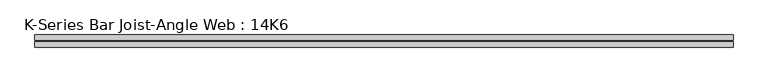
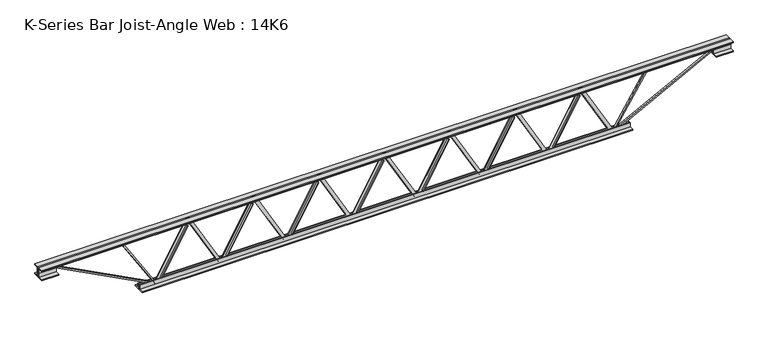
"""IFC4 building model written with IfcOpenShell, lengths in millimetres: beam geometry, K-Series Bar Joist-Angle Web : 14K6."""

import ifcopenshell
import ifcopenshell.guid

model = None  # the IFC model being written
_history = None  # IfcOwnerHistory: only IFC2X3 demands one
_inside = {}  # id of a spatial element -> (the spatial element, [elements in it])
_under = {}  # id of a project, library or spatial element -> (it, [spatial elements below it])
_declared = {}  # id of a project -> (the project, [libraries it declares])
_typed = {}  # id of a type object -> (the type object, [elements of that type])
_made_of = {}  # id of a material, layer set ... -> (it, [elements and type objects made of it])


def new_model(schema):
    """Start an empty IFC model of exactly this schema.

    Asked for "IFC4X3", IfcOpenShell would pick the latest addendum, in which some entities
    have other attributes; the version numbers below select the first issue.
    IFC2X3 requires an IfcOwnerHistory on every rooted entity: one is made here for all.
    """
    global model, _history
    if schema == "IFC4X3":
        model = ifcopenshell.file(schema_version=(4, 3, 0, 0))
    else:
        model = ifcopenshell.file(schema=schema)
    _inside.clear()
    _under.clear()
    _declared.clear()
    _typed.clear()
    _made_of.clear()
    _history = None
    if model.schema == "IFC2X3":
        org = make("IfcOrganization", Name="unknown")
        user = make(
            "IfcPersonAndOrganization",
            ThePerson=make("IfcPerson", FamilyName="unknown"),
            TheOrganization=org,
        )
        app = make(
            "IfcApplication",
            ApplicationDeveloper=org,
            Version="unknown",
            ApplicationFullName="unknown",
            ApplicationIdentifier="unknown",
        )
        _history = make(
            "IfcOwnerHistory",
            OwningUser=user,
            OwningApplication=app,
            ChangeAction="ADDED",
            CreationDate=0,
        )
    return model


def make(cls, **values):
    """One entity of the class cls with the attributes given. An attribute that is None is left unset."""
    return model.create_entity(
        cls, **{name: value for name, value in values.items() if value is not None}
    )


def rooted(cls, **values):
    """An entity with a GlobalId (a new one), such as an element, a storey or a relation."""
    return make(cls, GlobalId=ifcopenshell.guid.new(), OwnerHistory=_history, **values)


def si_unit(unit_type, name, prefix=None):
    """IfcSIUnit, for example si_unit("LENGTHUNIT", "METRE", prefix="MILLI")."""
    return make("IfcSIUnit", UnitType=unit_type, Prefix=prefix, Name=name)


def assignment(units):
    """IfcUnitAssignment: the units of a project."""
    return None if units is None else make("IfcUnitAssignment", Units=units)


def point(xyz):
    """IfcCartesianPoint."""
    return None if xyz is None else make("IfcCartesianPoint", Coordinates=xyz)


def direction(xyz):
    """IfcDirection."""
    return None if xyz is None else make("IfcDirection", DirectionRatios=xyz)


def frame(location, z_axis=None, x_axis=None):
    """IfcAxis2Placement3D, a coordinate frame: its origin and axes. An axis left out is left unset."""
    return make(
        "IfcAxis2Placement3D",
        Location=point(location),
        Axis=direction(z_axis),
        RefDirection=direction(x_axis),
    )


def origin():
    """The frame at (0, 0, 0) with its axes left unset."""
    return frame((0.0, 0.0, 0.0))


def place(relative_to, where):
    """IfcLocalPlacement: puts the frame where relative to a parent placement (None: the world)."""
    return make(
        "IfcLocalPlacement", PlacementRelTo=relative_to, RelativePlacement=where
    )


def context(
    kind, dimensions, precision=None, world=None, true_north=None, identifier=None
):
    """IfcGeometricRepresentationContext, for example the 3D "Model" context."""
    return make(
        "IfcGeometricRepresentationContext",
        ContextIdentifier=identifier,
        ContextType=kind,
        CoordinateSpaceDimension=dimensions,
        Precision=precision,
        WorldCoordinateSystem=world,
        TrueNorth=true_north,
    )


def project(units=None, contexts=None):
    """IfcProject with its units and contexts."""
    return rooted(
        "IfcProject",
        Name="project",
        RepresentationContexts=contexts,
        UnitsInContext=assignment(units),
    )


def spatial(cls, under=None, at=None, **own):
    """A site, building, storey or space (cls), placed at a placement, below another one or the project."""
    s = rooted(cls, ObjectPlacement=at, **own)
    if under is not None:
        _under.setdefault(under.id(), (under, []))[1].append(s)
    return s


def polyline(points):
    """IfcPolyline through the points."""
    return make("IfcPolyline", Points=[point(p) for p in points])


def outline(outer, holes=None, kind="AREA"):
    """IfcArbitraryClosedProfileDef: a profile drawn as a closed curve; with holes, ...WithVoids."""
    if holes is None:
        return make("IfcArbitraryClosedProfileDef", ProfileType=kind, OuterCurve=outer)
    return make(
        "IfcArbitraryProfileDefWithVoids",
        ProfileType=kind,
        OuterCurve=outer,
        InnerCurves=holes,
    )


def extrude(swept, where, along, depth):
    """IfcExtrudedAreaSolid: the profile swept, set in the frame where, extruded along a direction by depth."""
    return make(
        "IfcExtrudedAreaSolid",
        SweptArea=swept,
        Position=where,
        ExtrudedDirection=direction(along),
        Depth=depth,
    )


def faces_of(points, faces, orient=None, outer=None):
    """IfcFace entities. A face is a list of loops; a loop is a list of indices into points, from 0.

    orient and outer hold one flag for each loop. By default every Orientation is true, the
    first loop of a face is its IfcFaceOuterBound and the others are IfcFaceBound.
    """
    made = []
    for i, loops in enumerate(faces):
        bounds = []
        for j, loop in enumerate(loops):
            is_outer = j == 0 if outer is None else outer[i][j]
            bounds.append(
                make(
                    "IfcFaceOuterBound" if is_outer else "IfcFaceBound",
                    Bound=make("IfcPolyLoop", Polygon=[points[k] for k in loop]),
                    Orientation=True if orient is None else orient[i][j],
                )
            )
        made.append(make("IfcFace", Bounds=bounds))
    return made


def faceted_brep(points, faces, orient=None, outer=None, voids=None):
    """IfcFacetedBrep: a solid bounded by flat faces; with voids (closed shells), ...WithVoids."""
    shared = [point(p) for p in points]
    hull = make("IfcClosedShell", CfsFaces=faces_of(shared, faces, orient, outer))
    if voids is None:
        return make("IfcFacetedBrep", Outer=hull)
    return make(
        "IfcFacetedBrepWithVoids",
        Outer=hull,
        Voids=[
            make(cls, CfsFaces=faces_of(shared, fs, o, b)) for cls, fs, o, b in voids
        ],
    )


def shape(context_of_items, identifier, shape_type, items):
    """IfcShapeRepresentation: the items that make up one representation, for example the "Body"."""
    return make(
        "IfcShapeRepresentation",
        ContextOfItems=context_of_items,
        RepresentationIdentifier=identifier,
        RepresentationType=shape_type,
        Items=items,
    )


def source(mapping_origin, context_of_items, identifier, shape_type, items):
    """IfcRepresentationMap: a shape defined once, which mapped items show again and again."""
    return make(
        "IfcRepresentationMap",
        MappingOrigin=mapping_origin,
        MappedRepresentation=shape(context_of_items, identifier, shape_type, items),
    )


def transform(
    local_origin,
    x_axis=None,
    y_axis=None,
    z_axis=None,
    scale=None,
    scale2=None,
    scale3=None,
    uniform=True,
):
    """IfcCartesianTransformationOperator3D, or its non-uniform kind. x_axis, y_axis, z_axis: its Axis1, 2, 3."""
    if uniform:
        return make(
            "IfcCartesianTransformationOperator3D",
            Axis1=direction(x_axis),
            Axis2=direction(y_axis),
            LocalOrigin=point(local_origin),
            Scale=scale,
            Axis3=direction(z_axis),
        )
    return make(
        "IfcCartesianTransformationOperator3DnonUniform",
        Axis1=direction(x_axis),
        Axis2=direction(y_axis),
        LocalOrigin=point(local_origin),
        Scale=scale,
        Axis3=direction(z_axis),
        Scale2=scale2,
        Scale3=scale3,
    )


def mapped(mapping_source, mapping_target):
    """IfcMappedItem: shows the shape of a source again, moved by a transform."""
    return make(
        "IfcMappedItem", MappingSource=mapping_source, MappingTarget=mapping_target
    )


def made_of(thing, what):
    """Note that an element or type object is made of a material, layer set ...; save() writes the relation."""
    if what is not None:
        _made_of.setdefault(what.id(), (what, []))[1].append(thing)
    return thing


def element(
    cls,
    number,
    at=None,
    inside=None,
    cuts=None,
    type_object=None,
    material=None,
    context=None,
    identifier="Body",
    shape_type=None,
    held_by="IfcProductDefinitionShape",
    body=None,
    shapes=None,
    **own,
):
    """One element of the class cls, such as IfcWall. Its Tag is "e" and its number.

    at: its placement. inside: the storey or other place that contains it. cuts: it is an
    opening in that element (IfcRelVoidsElement). A single representation is given by context,
    identifier, shape_type and body (its items); several are given by shapes. held_by: the class
    of the entity that holds the representations. save() writes the other relations.
    """
    e = rooted(cls, Tag="e%d" % number, ObjectPlacement=at, **own)
    if body is not None:
        shapes = [shape(context, identifier, shape_type, body)]
    if shapes is not None:
        e.Representation = make(held_by, Representations=shapes)
    if inside is not None:
        _inside.setdefault(inside.id(), (inside, []))[1].append(e)
    if cuts is not None:
        rooted(
            "IfcRelVoidsElement", RelatingBuildingElement=cuts, RelatedOpeningElement=e
        )
    if type_object is not None:
        _typed.setdefault(type_object.id(), (type_object, []))[1].append(e)
    return made_of(e, material)


def aggregate(whole, parts):
    """IfcRelAggregates: a whole, such as a stair, and the parts it consists of."""
    return rooted("IfcRelAggregates", RelatingObject=whole, RelatedObjects=parts)


def save(model, path):
    """Write the relations noted so far, then the file.

    IfcRelAggregates (storeys below a building ...), IfcRelContainedInSpatialStructure (elements
    in a storey), IfcRelDefinesByType, IfcRelAssociatesMaterial and IfcRelDeclares: one each for
    every whole, place, type object, material and project.
    """
    for whole, parts in _under.values():
        aggregate(whole, parts)
    for where, things in _inside.values():
        rooted(
            "IfcRelContainedInSpatialStructure",
            RelatedElements=things,
            RelatingStructure=where,
        )
    for kind, things in _typed.values():
        rooted("IfcRelDefinesByType", RelatedObjects=things, RelatingType=kind)
    for what, things in _made_of.values():
        rooted("IfcRelAssociatesMaterial", RelatedObjects=things, RelatingMaterial=what)
    for by, libraries in _declared.values():
        rooted("IfcRelDeclares", RelatingContext=by, RelatedDefinitions=libraries)
    model.write(path)


def k_series_bar_joist_angle_web_14k6_7bd1886d(model_context):
    return source(origin(), model_context, "Body", "SolidModel", [
        extrude(outline(polyline([(-4.7625, 4.7625), (-4.7625, 0.0), (-17.4625, 0.0), (-17.4625, 4.7625), (-4.7625, 4.7625)])), frame((962.2914263, 0.0, -139.7), z_axis=(-0.49094288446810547, 0.0, 0.8711917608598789), x_axis=(0.0, -1.0, 0.0)), (0.0, 0.0, 1.0), 320.7101037),
        extrude(outline(polyline([(-174.625, 993.8883929), (-155.575, 993.8883929), (-155.575, 993.1040665), (174.625, 807.0263879), (174.625, 788.7607143), (155.575, 788.7607143), (155.575, 795.8950406), (-174.625, 981.9727192), (-174.625, 993.8883929)])), frame((0.0, 0.0, 0.0), z_axis=(0.0, 1.0, 0.0), x_axis=(0.0, 0.0, 1.0)), (0.0, 0.0, 1.0), 4.7625),
        faceted_brep([(596.3330357, 0.0, -155.575), (596.3330357, 0.0, -174.625), (596.3330357, -4.7625, -174.625), (596.3330357, -4.7625, -155.575), (597.1173621, 0.0, -155.575), (783.1950406, 0.0, 174.625), (801.4607143, 0.0, 174.625), (801.4607143, 0.0, 155.575), (794.3263879, 0.0, 155.575), (608.2487094, 0.0, -174.625), (608.2487094, -4.7625, -174.625), (627.9300023, -4.7625, -139.7), (623.7809515, -4.7625, -137.3618845), (781.2312949, -4.7625, 142.0381155), (785.3803457, -4.7625, 139.7), (794.3263879, -4.7625, 155.575), (801.4607143, -4.7625, 155.575), (801.4607143, -4.7625, 174.625), (783.1950406, -4.7625, 174.625), (597.1173621, -4.7625, -155.575), (785.3803457, -17.4625, 139.7), (627.9300023, -17.4625, -139.7), (623.7809515, -17.4625, -137.3618845), (781.2312949, -17.4625, 142.0381155)], [[[0, 1, 2, 3]], [[1, 0, 4, 5, 6, 7, 8, 9]], [[2, 1, 9, 10]], [[3, 2, 10, 11, 12, 13, 14, 15, 16, 17, 18, 19]], [[0, 3, 19, 4]], [[9, 8, 15, 14, 20, 21, 11, 10]], [[5, 4, 19, 18]], [[7, 6, 17, 16]], [[8, 7, 16, 15]], [[6, 5, 18, 17]], [[21, 22, 12, 11]], [[20, 14, 13, 23]], [[22, 21, 20, 23]], [[12, 22, 23, 13]]]),
        extrude(outline(polyline([(-4.7625, 4.7625), (-4.7625, 0.0), (-17.4625, 0.0), (-17.4625, 4.7625), (-4.7625, 4.7625)])), frame((564.7360691, 0.0, -139.7), z_axis=(-0.49094288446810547, 0.0, 0.8711917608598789), x_axis=(0.0, -1.0, 0.0)), (0.0, 0.0, 1.0), 320.7101037),
        extrude(outline(polyline([(-174.625, 596.3330357), (-155.575, 596.3330357), (-155.575, 595.5487094), (174.625, 409.4710308), (174.625, 391.2053571), (155.575, 391.2053571), (155.575, 398.3396835), (-174.625, 584.4173621), (-174.625, 596.3330357)])), frame((0.0, 0.0, 0.0), z_axis=(0.0, 1.0, 0.0), x_axis=(0.0, 0.0, 1.0)), (0.0, 0.0, 1.0), 4.7625),
        faceted_brep([(198.7776786, 0.0, -155.575), (198.7776786, 0.0, -174.625), (198.7776786, -4.7625, -174.625), (198.7776786, -4.7625, -155.575), (199.5620049, 0.0, -155.575), (385.6396835, 0.0, 174.625), (403.9053571, 0.0, 174.625), (403.9053571, 0.0, 155.575), (396.7710308, 0.0, 155.575), (210.6933522, 0.0, -174.625), (210.6933522, -4.7625, -174.625), (230.3746451, -4.7625, -139.7), (226.2255944, -4.7625, -137.3618845), (383.6759378, -4.7625, 142.0381155), (387.8249886, -4.7625, 139.7), (396.7710308, -4.7625, 155.575), (403.9053571, -4.7625, 155.575), (403.9053571, -4.7625, 174.625), (385.6396835, -4.7625, 174.625), (199.5620049, -4.7625, -155.575), (387.8249886, -17.4625, 139.7), (230.3746451, -17.4625, -139.7), (226.2255944, -17.4625, -137.3618845), (383.6759378, -17.4625, 142.0381155)], [[[0, 1, 2, 3]], [[1, 0, 4, 5, 6, 7, 8, 9]], [[2, 1, 9, 10]], [[3, 2, 10, 11, 12, 13, 14, 15, 16, 17, 18, 19]], [[0, 3, 19, 4]], [[9, 8, 15, 14, 20, 21, 11, 10]], [[5, 4, 19, 18]], [[7, 6, 17, 16]], [[8, 7, 16, 15]], [[6, 5, 18, 17]], [[21, 22, 12, 11]], [[20, 14, 13, 23]], [[22, 21, 20, 23]], [[12, 22, 23, 13]]]),
        extrude(outline(polyline([(-4.7625, 4.7625), (-4.7625, 0.0), (-17.4625, 0.0), (-17.4625, 4.7625), (-4.7625, 4.7625)])), frame((167.180712, 0.0, -139.7), z_axis=(-0.49094288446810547, 0.0, 0.8711917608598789), x_axis=(0.0, -1.0, 0.0)), (0.0, 0.0, 1.0), 320.7101037),
        extrude(outline(polyline([(-174.625, 198.7776786), (-155.575, 198.7776786), (-155.575, 197.9933522), (174.625, 11.9156736), (174.625, -6.35), (155.575, -6.35), (155.575, 0.7843264), (-174.625, 186.8620049), (-174.625, 198.7776786)])), frame((0.0, 0.0, 0.0), z_axis=(0.0, 1.0, 0.0), x_axis=(0.0, 0.0, 1.0)), (0.0, 0.0, 1.0), 4.7625),
        faceted_brep([(-198.7776786, 0.0, -155.575), (-198.7776786, 0.0, -174.625), (-198.7776786, -4.7625, -174.625), (-198.7776786, -4.7625, -155.575), (-197.9933522, 0.0, -155.575), (-11.9156736, 0.0, 174.625), (6.35, 0.0, 174.625), (6.35, 0.0, 155.575), (-0.7843264, 0.0, 155.575), (-186.8620049, 0.0, -174.625), (-186.8620049, -4.7625, -174.625), (-167.180712, -4.7625, -139.7), (-171.3297628, -4.7625, -137.3618845), (-13.8794194, -4.7625, 142.0381155), (-9.7303686, -4.7625, 139.7), (-0.7843264, -4.7625, 155.575), (6.35, -4.7625, 155.575), (6.35, -4.7625, 174.625), (-11.9156736, -4.7625, 174.625), (-197.9933522, -4.7625, -155.575), (-9.7303686, -17.4625, 139.7), (-167.180712, -17.4625, -139.7), (-171.3297628, -17.4625, -137.3618845), (-13.8794194, -17.4625, 142.0381155)], [[[0, 1, 2, 3]], [[1, 0, 4, 5, 6, 7, 8, 9]], [[2, 1, 9, 10]], [[3, 2, 10, 11, 12, 13, 14, 15, 16, 17, 18, 19]], [[0, 3, 19, 4]], [[9, 8, 15, 14, 20, 21, 11, 10]], [[5, 4, 19, 18]], [[7, 6, 17, 16]], [[8, 7, 16, 15]], [[6, 5, 18, 17]], [[21, 22, 12, 11]], [[20, 14, 13, 23]], [[22, 21, 20, 23]], [[12, 22, 23, 13]]]),
        extrude(outline(polyline([(-4.7625, 4.7625), (-4.7625, 0.0), (-17.4625, 0.0), (-17.4625, 4.7625), (-4.7625, 4.7625)])), frame((-230.3746451, 0.0, -139.7), z_axis=(-0.49094288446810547, 0.0, 0.8711917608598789), x_axis=(0.0, -1.0, 0.0)), (0.0, 0.0, 1.0), 320.7101037),
        extrude(outline(polyline([(-174.625, -198.7776786), (-155.575, -198.7776786), (-155.575, -199.5620049), (174.625, -385.6396835), (174.625, -403.9053571), (155.575, -403.9053571), (155.575, -396.7710308), (-174.625, -210.6933522), (-174.625, -198.7776786)])), frame((0.0, 0.0, 0.0), z_axis=(0.0, 1.0, 0.0), x_axis=(0.0, 0.0, 1.0)), (0.0, 0.0, 1.0), 4.7625),
        faceted_brep([(-596.3330357, 0.0, -155.575), (-596.3330357, 0.0, -174.625), (-596.3330357, -4.7625, -174.625), (-596.3330357, -4.7625, -155.575), (-595.5487094, 0.0, -155.575), (-409.4710308, 0.0, 174.625), (-391.2053571, 0.0, 174.625), (-391.2053571, 0.0, 155.575), (-398.3396835, 0.0, 155.575), (-584.4173621, 0.0, -174.625), (-584.4173621, -4.7625, -174.625), (-564.7360691, -4.7625, -139.7), (-568.8851199, -4.7625, -137.3618845), (-411.4347765, -4.7625, 142.0381155), (-407.2857257, -4.7625, 139.7), (-398.3396835, -4.7625, 155.575), (-391.2053571, -4.7625, 155.575), (-391.2053571, -4.7625, 174.625), (-409.4710308, -4.7625, 174.625), (-595.5487094, -4.7625, -155.575), (-407.2857257, -17.4625, 139.7), (-564.7360691, -17.4625, -139.7), (-568.8851199, -17.4625, -137.3618845), (-411.4347765, -17.4625, 142.0381155)], [[[0, 1, 2, 3]], [[1, 0, 4, 5, 6, 7, 8, 9]], [[2, 1, 9, 10]], [[3, 2, 10, 11, 12, 13, 14, 15, 16, 17, 18, 19]], [[0, 3, 19, 4]], [[9, 8, 15, 14, 20, 21, 11, 10]], [[5, 4, 19, 18]], [[7, 6, 17, 16]], [[8, 7, 16, 15]], [[6, 5, 18, 17]], [[21, 22, 12, 11]], [[20, 14, 13, 23]], [[22, 21, 20, 23]], [[12, 22, 23, 13]]]),
        extrude(outline(polyline([(-4.7625, 4.7625), (-4.7625, 0.0), (-17.4625, 0.0), (-17.4625, 4.7625), (-4.7625, 4.7625)])), frame((-627.9300023, 0.0, -139.7), z_axis=(-0.49094288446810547, 0.0, 0.8711917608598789), x_axis=(0.0, -1.0, 0.0)), (0.0, 0.0, 1.0), 320.7101037),
        extrude(outline(polyline([(-174.625, -596.3330357), (-155.575, -596.3330357), (-155.575, -597.1173621), (174.625, -783.1950406), (174.625, -801.4607143), (155.575, -801.4607143), (155.575, -794.3263879), (-174.625, -608.2487094), (-174.625, -596.3330357)])), frame((0.0, 0.0, 0.0), z_axis=(0.0, 1.0, 0.0), x_axis=(0.0, 0.0, 1.0)), (0.0, 0.0, 1.0), 4.7625),
        faceted_brep([(-993.8883929, 0.0, -155.575), (-993.8883929, 0.0, -174.625), (-993.8883929, -4.7625, -174.625), (-993.8883929, -4.7625, -155.575), (-993.1040665, 0.0, -155.575), (-807.0263879, 0.0, 174.625), (-788.7607143, 0.0, 174.625), (-788.7607143, 0.0, 155.575), (-795.8950406, 0.0, 155.575), (-981.9727192, 0.0, -174.625), (-981.9727192, -4.7625, -174.625), (-962.2914263, -4.7625, -139.7), (-966.440477, -4.7625, -137.3618845), (-808.9901336, -4.7625, 142.0381155), (-804.8410829, -4.7625, 139.7), (-795.8950406, -4.7625, 155.575), (-788.7607143, -4.7625, 155.575), (-788.7607143, -4.7625, 174.625), (-807.0263879, -4.7625, 174.625), (-993.1040665, -4.7625, -155.575), (-804.8410829, -17.4625, 139.7), (-962.2914263, -17.4625, -139.7), (-966.440477, -17.4625, -137.3618845), (-808.9901336, -17.4625, 142.0381155)], [[[0, 1, 2, 3]], [[1, 0, 4, 5, 6, 7, 8, 9]], [[2, 1, 9, 10]], [[3, 2, 10, 11, 12, 13, 14, 15, 16, 17, 18, 19]], [[0, 3, 19, 4]], [[9, 8, 15, 14, 20, 21, 11, 10]], [[5, 4, 19, 18]], [[7, 6, 17, 16]], [[8, 7, 16, 15]], [[6, 5, 18, 17]], [[21, 22, 12, 11]], [[20, 14, 13, 23]], [[22, 21, 20, 23]], [[12, 22, 23, 13]]]),
        extrude(outline(polyline([(-4.7625, 4.7625), (-4.7625, 0.0), (-17.4625, 0.0), (-17.4625, 4.7625), (-4.7625, 4.7625)])), frame((1359.8467834, 0.0, -139.7), z_axis=(-0.49094288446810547, 0.0, 0.8711917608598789), x_axis=(0.0, -1.0, 0.0)), (0.0, 0.0, 1.0), 320.7101037),
        extrude(outline(polyline([(-174.625, 1391.44375), (-155.575, 1391.44375), (-155.575, 1390.6594236), (174.625, 1204.5817451), (174.625, 1186.3160714), (155.575, 1186.3160714), (155.575, 1193.4503978), (-174.625, 1379.5280764), (-174.625, 1391.44375)])), frame((0.0, 0.0, 0.0), z_axis=(0.0, 1.0, 0.0), x_axis=(0.0, 0.0, 1.0)), (0.0, 0.0, 1.0), 4.7625),
        faceted_brep([(993.8883929, 0.0, -155.575), (993.8883929, 0.0, -174.625), (993.8883929, -4.7625, -174.625), (993.8883929, -4.7625, -155.575), (994.6727192, 0.0, -155.575), (1180.7503978, 0.0, 174.625), (1199.0160714, 0.0, 174.625), (1199.0160714, 0.0, 155.575), (1191.8817451, 0.0, 155.575), (1005.8040665, 0.0, -174.625), (1005.8040665, -4.7625, -174.625), (1025.4853594, -4.7625, -139.7), (1021.3363087, -4.7625, -137.3618845), (1178.7866521, -4.7625, 142.0381155), (1182.9357028, -4.7625, 139.7), (1191.8817451, -4.7625, 155.575), (1199.0160714, -4.7625, 155.575), (1199.0160714, -4.7625, 174.625), (1180.7503978, -4.7625, 174.625), (994.6727192, -4.7625, -155.575), (1182.9357028, -17.4625, 139.7), (1025.4853594, -17.4625, -139.7), (1021.3363087, -17.4625, -137.3618845), (1178.7866521, -17.4625, 142.0381155)], [[[0, 1, 2, 3]], [[1, 0, 4, 5, 6, 7, 8, 9]], [[2, 1, 9, 10]], [[3, 2, 10, 11, 12, 13, 14, 15, 16, 17, 18, 19]], [[0, 3, 19, 4]], [[9, 8, 15, 14, 20, 21, 11, 10]], [[5, 4, 19, 18]], [[7, 6, 17, 16]], [[8, 7, 16, 15]], [[6, 5, 18, 17]], [[21, 22, 12, 11]], [[20, 14, 13, 23]], [[22, 21, 20, 23]], [[12, 22, 23, 13]]]),
        extrude(outline(polyline([(-4.7625, 4.7625), (-4.7625, 0.0), (-17.4625, 0.0), (-17.4625, 4.7625), (-4.7625, 4.7625)])), frame((-1025.4853594, 0.0, -139.7), z_axis=(-0.49094288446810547, 0.0, 0.8711917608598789), x_axis=(0.0, -1.0, 0.0)), (0.0, 0.0, 1.0), 320.7101037),
        extrude(outline(polyline([(-174.625, -993.8883929), (-155.575, -993.8883929), (-155.575, -994.6727192), (174.625, -1180.7503978), (174.625, -1199.0160714), (155.575, -1199.0160714), (155.575, -1191.8817451), (-174.625, -1005.8040665), (-174.625, -993.8883929)])), frame((0.0, 0.0, 0.0), z_axis=(0.0, 1.0, 0.0), x_axis=(0.0, 0.0, 1.0)), (0.0, 0.0, 1.0), 4.7625),
        faceted_brep([(-1391.44375, 0.0, -155.575), (-1391.44375, 0.0, -174.625), (-1391.44375, -4.7625, -174.625), (-1391.44375, -4.7625, -155.575), (-1390.6594236, 0.0, -155.575), (-1204.5817451, 0.0, 174.625), (-1186.3160714, 0.0, 174.625), (-1186.3160714, 0.0, 155.575), (-1193.4503978, 0.0, 155.575), (-1379.5280764, 0.0, -174.625), (-1379.5280764, -4.7625, -174.625), (-1359.8467834, -4.7625, -139.7), (-1363.9958342, -4.7625, -137.3618845), (-1206.5454908, -4.7625, 142.0381155), (-1202.39644, -4.7625, 139.7), (-1193.4503978, -4.7625, 155.575), (-1186.3160714, -4.7625, 155.575), (-1186.3160714, -4.7625, 174.625), (-1204.5817451, -4.7625, 174.625), (-1390.6594236, -4.7625, -155.575), (-1202.39644, -17.4625, 139.7), (-1359.8467834, -17.4625, -139.7), (-1363.9958342, -17.4625, -137.3618845), (-1206.5454908, -17.4625, 142.0381155)], [[[0, 1, 2, 3]], [[1, 0, 4, 5, 6, 7, 8, 9]], [[2, 1, 9, 10]], [[3, 2, 10, 11, 12, 13, 14, 15, 16, 17, 18, 19]], [[0, 3, 19, 4]], [[9, 8, 15, 14, 20, 21, 11, 10]], [[5, 4, 19, 18]], [[7, 6, 17, 16]], [[8, 7, 16, 15]], [[6, 5, 18, 17]], [[21, 22, 12, 11]], [[20, 14, 13, 23]], [[22, 21, 20, 23]], [[12, 22, 23, 13]]]),
        extrude(outline(polyline([(4.7625, 177.8), (36.5125, 177.8), (36.5125, 171.45), (11.1125, 171.45), (11.1125, 146.05), (4.7625, 146.05), (4.7625, 177.8)])), frame((-2102.64375, 0.0, 0.0), z_axis=(1.0, 0.0, 0.0), x_axis=(0.0, 1.0, 0.0)), (0.0, 0.0, 1.0), 4205.2875),
        extrude(outline(polyline([(-4.7625, 177.8), (-4.7625, 146.05), (-11.1125, 146.05), (-11.1125, 171.45), (-36.5125, 171.45), (-36.5125, 177.8), (-4.7625, 177.8)])), frame((-2102.64375, 0.0, 0.0), z_axis=(1.0, 0.0, 0.0), x_axis=(0.0, 1.0, 0.0)), (0.0, 0.0, 1.0), 4205.2875),
        extrude(outline(polyline([(4.7625, -177.8), (4.7625, -146.05), (11.1125, -146.05), (11.1125, -171.45), (36.5125, -171.45), (36.5125, -177.8), (4.7625, -177.8)])), frame((-1493.04375, 0.0, 0.0), z_axis=(1.0, 0.0, 0.0), x_axis=(0.0, 1.0, 0.0)), (0.0, 0.0, 1.0), 2986.0875),
        extrude(outline(polyline([(-4.7625, -177.8), (-36.5125, -177.8), (-36.5125, -171.45), (-11.1125, -171.45), (-11.1125, -146.05), (-4.7625, -146.05), (-4.7625, -177.8)])), frame((-1493.04375, 0.0, 0.0), z_axis=(1.0, 0.0, 0.0), x_axis=(0.0, 1.0, 0.0)), (0.0, 0.0, 1.0), 2986.0875),
        extrude(outline(polyline([(4.7625, 114.3), (4.7625, 146.05), (11.1125, 146.05), (11.1125, 120.65), (36.5125, 120.65), (36.5125, 114.3), (4.7625, 114.3)])), frame((2001.04375, 0.0, 0.0), z_axis=(1.0, 0.0, 0.0), x_axis=(0.0, 1.0, 0.0)), (0.0, 0.0, 1.0), 101.6),
        extrude(outline(polyline([(-4.7625, 114.3), (-36.5125, 114.3), (-36.5125, 120.65), (-11.1125, 120.65), (-11.1125, 146.05), (-4.7625, 146.05), (-4.7625, 114.3)])), frame((2001.04375, 0.0, 0.0), z_axis=(1.0, 0.0, 0.0), x_axis=(0.0, 1.0, 0.0)), (0.0, 0.0, 1.0), 101.6),
        extrude(outline(polyline([(-4.7625, 114.3), (-36.5125, 114.3), (-36.5125, 120.65), (-11.1125, 120.65), (-11.1125, 146.05), (-4.7625, 146.05), (-4.7625, 114.3)])), frame((-2102.64375, 0.0, 0.0), z_axis=(1.0, 0.0, 0.0), x_axis=(0.0, 1.0, 0.0)), (0.0, 0.0, 1.0), 101.6),
        extrude(outline(polyline([(36.5125, 114.3), (4.7625, 114.3), (4.7625, 146.05), (11.1125, 146.05), (11.1125, 120.65), (36.5125, 120.65), (36.5125, 114.3)])), frame((-2102.64375, 0.0, 0.0), z_axis=(1.0, 0.0, 0.0), x_axis=(0.0, 1.0, 0.0)), (0.0, 0.0, 1.0), 101.6),
        extrude(outline(polyline([(4.7625, 4.7625), (4.7625, -4.7625), (-4.7625, -4.7625), (-4.7625, 4.7625), (4.7625, 4.7625)])), frame((-1391.44375, 0.0, -171.45), z_axis=(-0.5306518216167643, 0.0, 0.8475899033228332), x_axis=(0.0, -1.0, 0.0)), (0.0, 0.0, 1.0), 374.5915315),
        extrude(outline(polyline([(4.7625, 4.7625), (4.7625, -4.7625), (-4.7625, -4.7625), (-4.7625, 4.7625), (4.7625, 4.7625)])), frame((1391.44375, 0.0, -171.45), z_axis=(0.5306518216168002, 0.0, 0.8475899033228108), x_axis=(0.0, -1.0, 0.0)), (0.0, 0.0, 1.0), 374.5915315),
        extrude(outline(polyline([(0.0, -9.525), (0.0, 0.0), (687.3270037, 0.0), (687.3270037, -9.525), (0.0, -9.525)])), frame((-2003.2437127, 4.7625, 141.8260717), z_axis=(0.4619344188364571, 0.0, 0.886914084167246), x_axis=(0.886914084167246, 0.0, -0.4619344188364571)), (0.0, 0.0, 1.0), 9.525),
        extrude(outline(polyline([(0.0, -9.525), (0.0, 0.0), (687.3270037, 0.0), (687.3270037, -9.525), (0.0, -9.525)])), frame((2003.2437127, -4.7625, 141.8260717), z_axis=(-0.4619344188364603, 0.0, 0.8869140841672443), x_axis=(-0.8869140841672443, 0.0, -0.4619344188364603)), (0.0, 0.0, 1.0), 9.525),
    ])


if __name__ == "__main__":
    model = new_model("IFC4")
    model_context = context("Model", 3, world=origin())
    ifc_project = project(units=[si_unit("LENGTHUNIT", "METRE", prefix="MILLI")], contexts=[model_context])
    site = spatial("IfcSite", under=ifc_project)
    building = spatial("IfcBuilding", under=site)
    placement = place(None, origin())
    k_series_bar_joist_angle_web_14k6_shape = k_series_bar_joist_angle_web_14k6_7bd1886d(model_context)
    element("IfcBeam", 1, ObjectType="K-Series Bar Joist-Angle Web : 14K6", at=placement, inside=building, context=model_context, shape_type="MappedRepresentation", body=[
        mapped(k_series_bar_joist_angle_web_14k6_shape, transform((0.0, 0.0, 0.0), x_axis=(1.0, 0.0, 0.0), y_axis=(0.0, 1.0, 0.0), z_axis=(0.0, 0.0, 1.0))),
    ])
    save(model, "model.ifc")
